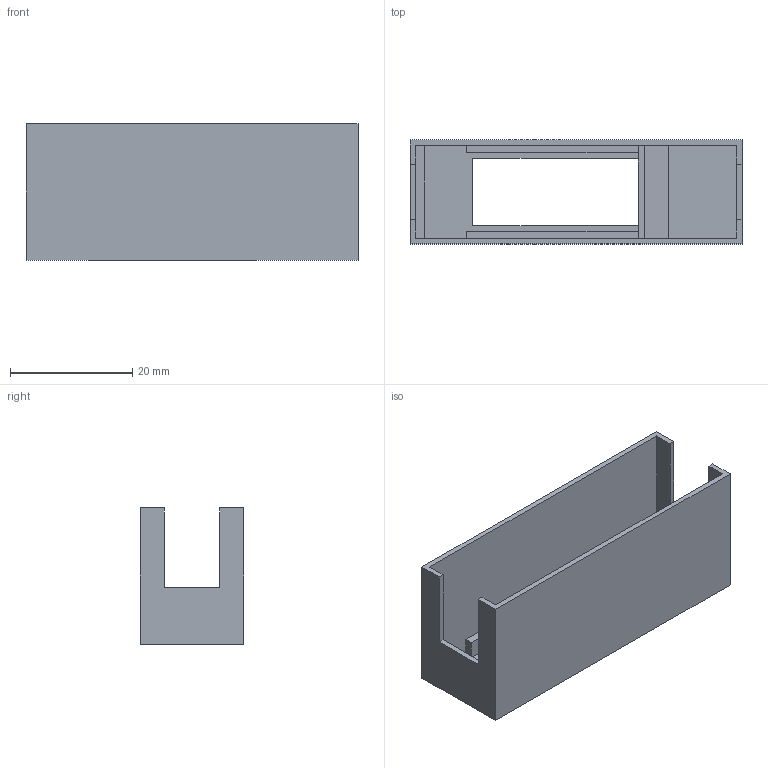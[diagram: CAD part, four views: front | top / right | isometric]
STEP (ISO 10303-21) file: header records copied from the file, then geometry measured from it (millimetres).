
FILE_DESCRIPTION(('FreeCAD Model'),'2;1');
FILE_NAME('Open CASCADE Shape Model','2025-03-10T19:21:12',(''),(''), 'Open CASCADE STEP processor 7.8','FreeCAD','Unknown');
FILE_SCHEMA(('AUTOMOTIVE_DESIGN { 1 0 10303 214 1 1 1 1 }'));
Length unit declared in the file: millimetre
Products named in the file (1): Body
Bounding box: 54.3 x 17 x 22.25 mm (x, y, z)
Volume: 3137.5 mm3; surface area: 7014.6 mm2
Topology: 1 solids, 1 shells, 38 faces, 107 edges, 70 vertices
Faces by surface type: plane 38
Entity records: 1225 total; most frequent: CARTESIAN_POINT 216, ORIENTED_EDGE 214, DIRECTION 185, EDGE_CURVE 107, LINE 107, VECTOR 107, VERTEX_POINT 70, AXIS2_PLACEMENT_3D 39
